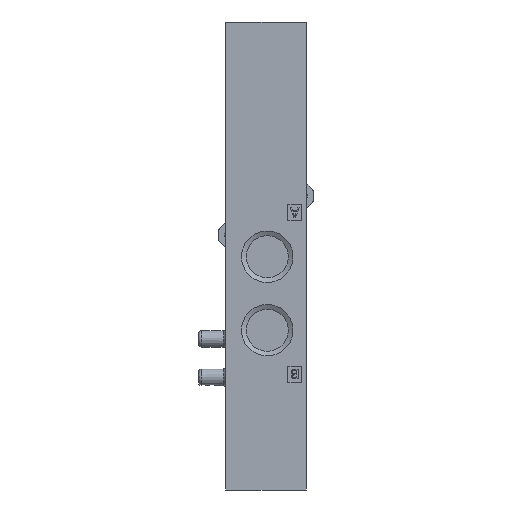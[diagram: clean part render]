
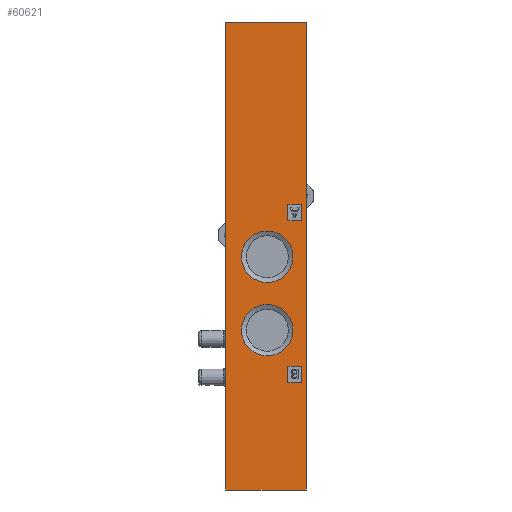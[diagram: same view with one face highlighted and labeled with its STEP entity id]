
A CAD part, front view. The second image highlights one B-rep face of the part: STEP entity #60621.
In plain terms, the highlighted planar face has unit normal (0, -1, 0).
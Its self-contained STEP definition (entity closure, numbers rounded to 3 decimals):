
#870 = VECTOR ( 'NONE', #1811, 1000. ) ;
#937 = DIRECTION ( 'NONE',  ( 0., 0., 1. ) ) ;
#1811 = DIRECTION ( 'NONE',  ( 0., 0., -1. ) ) ;
#2631 = LINE ( 'NONE', #54855, #17893 ) ;
#3109 = CARTESIAN_POINT ( 'NONE',  ( 4.45, 0., 7.163 ) ) ;
#3295 = VECTOR ( 'NONE', #14858, 1000. ) ;
#4636 = LINE ( 'NONE', #53571, #33349 ) ;
#5665 = CIRCLE ( 'NONE', #11837, 5.25 ) ;
#5749 = EDGE_CURVE ( 'NONE', #42866, #67044, #6193, .T. ) ;
#5826 = ORIENTED_EDGE ( 'NONE', *, *, #45545, .F. ) ;
#6188 = ORIENTED_EDGE ( 'NONE', *, *, #5749, .F. ) ;
#6193 = LINE ( 'NONE', #71454, #34931 ) ;
#6965 = FACE_BOUND ( 'NONE', #58488, .T. ) ;
#7443 = CARTESIAN_POINT ( 'NONE',  ( -8.25, 0., 47.75 ) ) ;
#8251 = EDGE_CURVE ( 'NONE', #40534, #58061, #2631, .T. ) ;
#9811 = LINE ( 'NONE', #14775, #40387 ) ;
#10100 = LINE ( 'NONE', #41059, #25337 ) ;
#11228 = VECTOR ( 'NONE', #49119, 1000. ) ;
#11654 = CARTESIAN_POINT ( 'NONE',  ( -8.25, 0., -47.75 ) ) ;
#11837 = AXIS2_PLACEMENT_3D ( 'NONE', #31840, #72089, #37669 ) ;
#12637 = CARTESIAN_POINT ( 'NONE',  ( 5.5, 0., -15.15 ) ) ;
#13167 = EDGE_CURVE ( 'NONE', #58061, #30814, #38899, .T. ) ;
#14340 = DIRECTION ( 'NONE',  ( 0., 0., 1. ) ) ;
#14646 = DIRECTION ( 'NONE',  ( 0., 0., 1. ) ) ;
#14775 = CARTESIAN_POINT ( 'NONE',  ( -8.25, 0., 7.163 ) ) ;
#14858 = DIRECTION ( 'NONE',  ( -1., 0., 0. ) ) ;
#15802 = CIRCLE ( 'NONE', #35267, 5.25 ) ;
#15889 = CARTESIAN_POINT ( 'NONE',  ( 4.45, 0., -22.45 ) ) ;
#16144 = VERTEX_POINT ( 'NONE', #26321 ) ;
#16982 = DIRECTION ( 'NONE',  ( -1., 0., 0. ) ) ;
#17087 = ORIENTED_EDGE ( 'NONE', *, *, #34424, .F. ) ;
#17395 = CARTESIAN_POINT ( 'NONE',  ( 4.45, 0., -47.75 ) ) ;
#17502 = DIRECTION ( 'NONE',  ( -1., 0., 0. ) ) ;
#17893 = VECTOR ( 'NONE', #14646, 1000. ) ;
#17934 = LINE ( 'NONE', #42533, #62023 ) ;
#18549 = EDGE_CURVE ( 'NONE', #33324, #73349, #42240, .T. ) ;
#22194 = FACE_OUTER_BOUND ( 'NONE', #27714, .T. ) ;
#23077 = ORIENTED_EDGE ( 'NONE', *, *, #58868, .F. ) ;
#23299 = AXIS2_PLACEMENT_3D ( 'NONE', #11654, #51951, #17502 ) ;
#23556 = VECTOR ( 'NONE', #16982, 1000. ) ;
#23607 = ORIENTED_EDGE ( 'NONE', *, *, #47575, .F. ) ;
#25337 = VECTOR ( 'NONE', #937, 1000. ) ;
#26260 = CARTESIAN_POINT ( 'NONE',  ( 7.25, 0., 10.563 ) ) ;
#26321 = CARTESIAN_POINT ( 'NONE',  ( -8.25, 0., -47.75 ) ) ;
#26330 = DIRECTION ( 'NONE',  ( 0., -1., 0. ) ) ;
#27218 = ORIENTED_EDGE ( 'NONE', *, *, #31466, .F. ) ;
#27714 = EDGE_LOOP ( 'NONE', ( #58604, #58255, #27218, #65545 ) ) ;
#28660 = CARTESIAN_POINT ( 'NONE',  ( 7.25, 0., 7.163 ) ) ;
#30010 = CARTESIAN_POINT ( 'NONE',  ( 7.25, 0., -22.45 ) ) ;
#30814 = VERTEX_POINT ( 'NONE', #7443 ) ;
#31102 = VERTEX_POINT ( 'NONE', #47416 ) ;
#31466 = EDGE_CURVE ( 'NONE', #16144, #30814, #17934, .T. ) ;
#31679 = CARTESIAN_POINT ( 'NONE',  ( 7.25, 0., -47.75 ) ) ;
#31840 = CARTESIAN_POINT ( 'NONE',  ( 0.25, 0., -0.15 ) ) ;
#33324 = VERTEX_POINT ( 'NONE', #26260 ) ;
#33349 = VECTOR ( 'NONE', #59397, 1000. ) ;
#34424 = EDGE_CURVE ( 'NONE', #65372, #65372, #15802, .T. ) ;
#34931 = VECTOR ( 'NONE', #72739, 1000. ) ;
#35267 = AXIS2_PLACEMENT_3D ( 'NONE', #60893, #26330, #66640 ) ;
#37118 = ORIENTED_EDGE ( 'NONE', *, *, #43601, .F. ) ;
#37517 = FACE_BOUND ( 'NONE', #45704, .T. ) ;
#37541 = CARTESIAN_POINT ( 'NONE',  ( 7.25, 0., -25.85 ) ) ;
#37669 = DIRECTION ( 'NONE',  ( 1., 0., 0. ) ) ;
#38899 = LINE ( 'NONE', #51411, #23556 ) ;
#39275 = DIRECTION ( 'NONE',  ( -1., 0., 0. ) ) ;
#39398 = EDGE_CURVE ( 'NONE', #31102, #31102, #5665, .T. ) ;
#40384 = VECTOR ( 'NONE', #39275, 1000. ) ;
#40387 = VECTOR ( 'NONE', #54989, 1000. ) ;
#40534 = VERTEX_POINT ( 'NONE', #40597 ) ;
#40597 = CARTESIAN_POINT ( 'NONE',  ( 8.25, 0., -47.75 ) ) ;
#41059 = CARTESIAN_POINT ( 'NONE',  ( 7.25, 0., -47.75 ) ) ;
#41701 = CARTESIAN_POINT ( 'NONE',  ( 4.45, 0., -47.75 ) ) ;
#41875 = LINE ( 'NONE', #31679, #11228 ) ;
#42240 = LINE ( 'NONE', #57130, #40384 ) ;
#42504 = EDGE_CURVE ( 'NONE', #51273, #52386, #9811, .T. ) ;
#42533 = CARTESIAN_POINT ( 'NONE',  ( -8.25, 0., -47.75 ) ) ;
#42866 = VERTEX_POINT ( 'NONE', #30010 ) ;
#43601 = EDGE_CURVE ( 'NONE', #52386, #33324, #41875, .T. ) ;
#44904 = LINE ( 'NONE', #41701, #870 ) ;
#45150 = CARTESIAN_POINT ( 'NONE',  ( 4.45, 0., -25.85 ) ) ;
#45545 = EDGE_CURVE ( 'NONE', #67044, #66426, #44904, .T. ) ;
#45575 = ORIENTED_EDGE ( 'NONE', *, *, #39398, .F. ) ;
#45704 = EDGE_LOOP ( 'NONE', ( #17087 ) ) ;
#47416 = CARTESIAN_POINT ( 'NONE',  ( 5.5, 0., -0.15 ) ) ;
#47575 = EDGE_CURVE ( 'NONE', #58437, #42866, #10100, .T. ) ;
#49119 = DIRECTION ( 'NONE',  ( 0., 0., 1. ) ) ;
#49165 = LINE ( 'NONE', #71923, #3295 ) ;
#49962 = CARTESIAN_POINT ( 'NONE',  ( 8.25, 0., 47.75 ) ) ;
#51080 = FACE_BOUND ( 'NONE', #60614, .T. ) ;
#51273 = VERTEX_POINT ( 'NONE', #3109 ) ;
#51282 = EDGE_CURVE ( 'NONE', #40534, #16144, #49165, .T. ) ;
#51411 = CARTESIAN_POINT ( 'NONE',  ( -8.25, 0., 47.75 ) ) ;
#51841 = DIRECTION ( 'NONE',  ( 0., 0., -1. ) ) ;
#51951 = DIRECTION ( 'NONE',  ( 0., 1., 0. ) ) ;
#52386 = VERTEX_POINT ( 'NONE', #28660 ) ;
#52851 = FACE_BOUND ( 'NONE', #58250, .T. ) ;
#53571 = CARTESIAN_POINT ( 'NONE',  ( -8.25, 0., -25.85 ) ) ;
#53740 = ORIENTED_EDGE ( 'NONE', *, *, #18549, .F. ) ;
#54855 = CARTESIAN_POINT ( 'NONE',  ( 8.25, 0., -47.75 ) ) ;
#54989 = DIRECTION ( 'NONE',  ( 1., 0., 0. ) ) ;
#57130 = CARTESIAN_POINT ( 'NONE',  ( -8.25, 0., 10.563 ) ) ;
#57451 = PLANE ( 'NONE',  #23299 ) ;
#58061 = VERTEX_POINT ( 'NONE', #49962 ) ;
#58108 = ORIENTED_EDGE ( 'NONE', *, *, #42504, .F. ) ;
#58250 = EDGE_LOOP ( 'NONE', ( #58108, #59833, #53740, #37118 ) ) ;
#58255 = ORIENTED_EDGE ( 'NONE', *, *, #13167, .T. ) ;
#58437 = VERTEX_POINT ( 'NONE', #37541 ) ;
#58488 = EDGE_LOOP ( 'NONE', ( #23077, #5826, #6188, #23607 ) ) ;
#58604 = ORIENTED_EDGE ( 'NONE', *, *, #8251, .T. ) ;
#58868 = EDGE_CURVE ( 'NONE', #66426, #58437, #4636, .T. ) ;
#59397 = DIRECTION ( 'NONE',  ( 1., 0., 0. ) ) ;
#59833 = ORIENTED_EDGE ( 'NONE', *, *, #68721, .F. ) ;
#60614 = EDGE_LOOP ( 'NONE', ( #45575 ) ) ;
#60621 = ADVANCED_FACE ( 'NONE', ( #37517, #51080, #22194, #52851, #6965 ), #57451, .F. ) ;
#60893 = CARTESIAN_POINT ( 'NONE',  ( 0.25, 0., -15.15 ) ) ;
#62023 = VECTOR ( 'NONE', #14340, 1000. ) ;
#63305 = CARTESIAN_POINT ( 'NONE',  ( 4.45, 0., 10.563 ) ) ;
#65372 = VERTEX_POINT ( 'NONE', #12637 ) ;
#65545 = ORIENTED_EDGE ( 'NONE', *, *, #51282, .F. ) ;
#66426 = VERTEX_POINT ( 'NONE', #45150 ) ;
#66640 = DIRECTION ( 'NONE',  ( 1., 0., 0. ) ) ;
#67044 = VERTEX_POINT ( 'NONE', #15889 ) ;
#68721 = EDGE_CURVE ( 'NONE', #73349, #51273, #74009, .T. ) ;
#71454 = CARTESIAN_POINT ( 'NONE',  ( -8.25, 0., -22.45 ) ) ;
#71923 = CARTESIAN_POINT ( 'NONE',  ( -8.25, 0., -47.75 ) ) ;
#72089 = DIRECTION ( 'NONE',  ( 0., -1., 0. ) ) ;
#72193 = VECTOR ( 'NONE', #51841, 1000. ) ;
#72739 = DIRECTION ( 'NONE',  ( -1., 0., 0. ) ) ;
#73349 = VERTEX_POINT ( 'NONE', #63305 ) ;
#74009 = LINE ( 'NONE', #17395, #72193 ) ;
